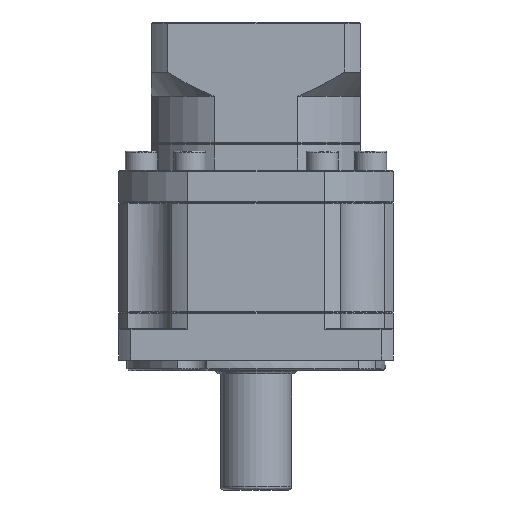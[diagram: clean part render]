
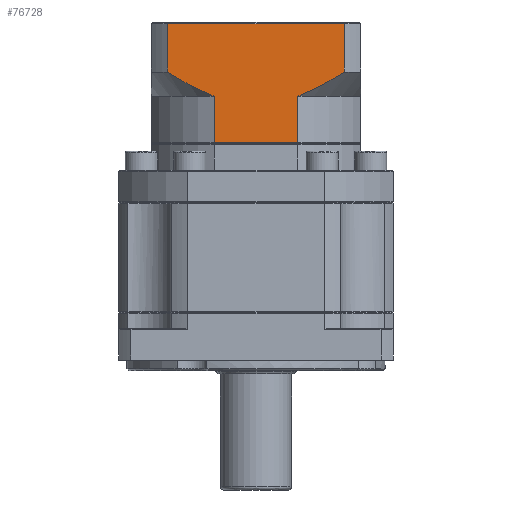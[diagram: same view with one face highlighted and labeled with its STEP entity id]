
A CAD part, front view. The second image highlights one B-rep face of the part: STEP entity #76728.
In plain terms, the highlighted planar face has unit normal (0, -1, 0).
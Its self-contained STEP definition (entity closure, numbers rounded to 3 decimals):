
#2866 = DIRECTION ( 'NONE',  ( 0., 1., 0. ) ) ;
#3859 = VERTEX_POINT ( 'NONE', #111352 ) ;
#5162 = CARTESIAN_POINT ( 'NONE',  ( 40.744, -25.976, 46.392 ) ) ;
#6309 = LINE ( 'NONE', #12481, #53848 ) ;
#8595 = CARTESIAN_POINT ( 'NONE',  ( 54.002, -25.976, 67.57 ) ) ;
#12344 = FACE_OUTER_BOUND ( 'NONE', #52273, .T. ) ;
#12481 = CARTESIAN_POINT ( 'NONE',  ( 0.368, -25.976, 83.303 ) ) ;
#15355 = DIRECTION ( 'NONE',  ( 0., 0., -1. ) ) ;
#17261 = ORIENTED_EDGE ( 'NONE', *, *, #49359, .F. ) ;
#20497 = CARTESIAN_POINT ( 'NONE',  ( 60.254, -25.976, 46.392 ) ) ;
#21095 = DIRECTION ( 'NONE',  ( -1., 0., 0. ) ) ;
#24540 = EDGE_CURVE ( 'NONE', #63896, #3859, #98451, .T. ) ;
#24807 = CARTESIAN_POINT ( 'NONE',  ( 14.121, -25.976, 61.042 ) ) ;
#27274 = VECTOR ( 'NONE', #87894, 1000. ) ;
#29479 = LINE ( 'NONE', #97003, #73997 ) ;
#34221 = CARTESIAN_POINT ( 'NONE',  ( 12.222, -25.976, 61.82 ) ) ;
#35590 = CARTESIAN_POINT ( 'NONE',  ( 50.514, -25.976, 65.469 ) ) ;
#36307 = VERTEX_POINT ( 'NONE', #97090 ) ;
#37854 = VECTOR ( 'NONE', #15355, 1000. ) ;
#38101 = DIRECTION ( 'NONE',  ( 1., 0., 0. ) ) ;
#40692 = LINE ( 'NONE', #77630, #37854 ) ;
#43217 = CARTESIAN_POINT ( 'NONE',  ( 9.744, -25.976, 62.943 ) ) ;
#44560 = CARTESIAN_POINT ( 'NONE',  ( 45.735, -25.976, 62.89 ) ) ;
#44671 = VECTOR ( 'NONE', #38101, 1000. ) ;
#48215 = CARTESIAN_POINT ( 'NONE',  ( 0.368, -25.976, 68.303 ) ) ;
#48847 = ORIENTED_EDGE ( 'NONE', *, *, #57368, .F. ) ;
#49359 = EDGE_CURVE ( 'NONE', #105901, #108418, #80522, .T. ) ;
#51400 = B_SPLINE_CURVE_WITH_KNOTS ( 'NONE', 3,
 ( #70922, #8595, #88877, #35590, #97932, #44560, #106923, #53490 ),
 .UNSPECIFIED., .F., .F.,
 ( 4, 2, 2, 4 ),
 ( 0.059, 0.063, 0.067, 0.075 ),
 .UNSPECIFIED. ) ;
#52149 = CARTESIAN_POINT ( 'NONE',  ( 4.952, -25.976, 65.453 ) ) ;
#52273 = EDGE_LOOP ( 'NONE', ( #17261, #110415, #83835, #48847, #105094, #110287, #73844, #78782 ) ) ;
#53490 = CARTESIAN_POINT ( 'NONE',  ( 40.744, -25.976, 60.803 ) ) ;
#53848 = VECTOR ( 'NONE', #21095, 1000. ) ;
#56341 = CARTESIAN_POINT ( 'NONE',  ( 60.254, -25.976, 83.803 ) ) ;
#57368 = EDGE_CURVE ( 'NONE', #36307, #63896, #105198, .T. ) ;
#59388 = EDGE_CURVE ( 'NONE', #77640, #101132, #40692, .T. ) ;
#59482 = VERTEX_POINT ( 'NONE', #88564 ) ;
#61103 = CARTESIAN_POINT ( 'NONE',  ( 0.368, -25.976, 68.303 ) ) ;
#61580 = CARTESIAN_POINT ( 'NONE',  ( 40.744, -25.976, 60.803 ) ) ;
#63896 = VERTEX_POINT ( 'NONE', #48215 ) ;
#65271 = DIRECTION ( 'NONE',  ( -1., 0., 0. ) ) ;
#69577 = CARTESIAN_POINT ( 'NONE',  ( 14.764, -25.976, 60.803 ) ) ;
#70922 = CARTESIAN_POINT ( 'NONE',  ( 55.14, -25.976, 68.303 ) ) ;
#73766 = CARTESIAN_POINT ( 'NONE',  ( 55.14, -25.976, 65.803 ) ) ;
#73844 = ORIENTED_EDGE ( 'NONE', *, *, #59388, .F. ) ;
#73997 = VECTOR ( 'NONE', #96857, 1000. ) ;
#76728 = ADVANCED_FACE ( 'NONE', ( #12344 ), #108652, .F. ) ;
#77427 = CARTESIAN_POINT ( 'NONE',  ( 55.14, -25.976, 68.303 ) ) ;
#77630 = CARTESIAN_POINT ( 'NONE',  ( 40.744, -25.976, 60.803 ) ) ;
#77640 = VERTEX_POINT ( 'NONE', #61580 ) ;
#78782 = ORIENTED_EDGE ( 'NONE', *, *, #86083, .F. ) ;
#78868 = CARTESIAN_POINT ( 'NONE',  ( 0.368, -25.976, 65.803 ) ) ;
#79183 = CARTESIAN_POINT ( 'NONE',  ( 55.14, -25.976, 83.303 ) ) ;
#80522 = LINE ( 'NONE', #73766, #101634 ) ;
#83835 = ORIENTED_EDGE ( 'NONE', *, *, #24540, .F. ) ;
#85617 = EDGE_CURVE ( 'NONE', #59482, #36307, #29479, .T. ) ;
#86083 = EDGE_CURVE ( 'NONE', #108418, #77640, #51400, .T. ) ;
#87526 = CARTESIAN_POINT ( 'NONE',  ( 13.482, -25.976, 61.294 ) ) ;
#87894 = DIRECTION ( 'NONE',  ( 0., 0., 1. ) ) ;
#88564 = CARTESIAN_POINT ( 'NONE',  ( 14.764, -25.976, 46.392 ) ) ;
#88877 = CARTESIAN_POINT ( 'NONE',  ( 52.85, -25.976, 66.854 ) ) ;
#89185 = AXIS2_PLACEMENT_3D ( 'NONE', #56341, #2866, #65271 ) ;
#91745 = DIRECTION ( 'NONE',  ( 0., 0., -1. ) ) ;
#96568 = CARTESIAN_POINT ( 'NONE',  ( 11.598, -25.976, 62.093 ) ) ;
#96857 = DIRECTION ( 'NONE',  ( 0., 0., 1. ) ) ;
#97003 = CARTESIAN_POINT ( 'NONE',  ( 14.764, -25.976, 60.803 ) ) ;
#97090 = CARTESIAN_POINT ( 'NONE',  ( 14.764, -25.976, 60.803 ) ) ;
#97932 = CARTESIAN_POINT ( 'NONE',  ( 49.329, -25.976, 64.799 ) ) ;
#98451 = LINE ( 'NONE', #78868, #27274 ) ;
#101132 = VERTEX_POINT ( 'NONE', #5162 ) ;
#101634 = VECTOR ( 'NONE', #91745, 1000. ) ;
#101655 = EDGE_CURVE ( 'NONE', #105901, #3859, #6309, .T. ) ;
#105094 = ORIENTED_EDGE ( 'NONE', *, *, #85617, .F. ) ;
#105198 = B_SPLINE_CURVE_WITH_KNOTS ( 'NONE', 3,
 ( #69577, #24807, #87526, #34221, #96568, #43217, #105571, #52149, #114543, #61103 ),
 .UNSPECIFIED., .F., .F.,
 ( 4, 2, 2, 2, 4 ),
 ( 0.101, 0.104, 0.106, 0.11, 0.118 ),
 .UNSPECIFIED. ) ;
#105571 = CARTESIAN_POINT ( 'NONE',  ( 8.532, -25.976, 63.548 ) ) ;
#105901 = VERTEX_POINT ( 'NONE', #79183 ) ;
#106923 = CARTESIAN_POINT ( 'NONE',  ( 43.283, -25.976, 61.746 ) ) ;
#108418 = VERTEX_POINT ( 'NONE', #77427 ) ;
#108652 = PLANE ( 'NONE',  #89185 ) ;
#110287 = ORIENTED_EDGE ( 'NONE', *, *, #111007, .T. ) ;
#110415 = ORIENTED_EDGE ( 'NONE', *, *, #101655, .T. ) ;
#111007 = EDGE_CURVE ( 'NONE', #59482, #101132, #112992, .T. ) ;
#111352 = CARTESIAN_POINT ( 'NONE',  ( 0.368, -25.976, 83.303 ) ) ;
#112992 = LINE ( 'NONE', #20497, #44671 ) ;
#114543 = CARTESIAN_POINT ( 'NONE',  ( 2.637, -25.976, 66.841 ) ) ;
